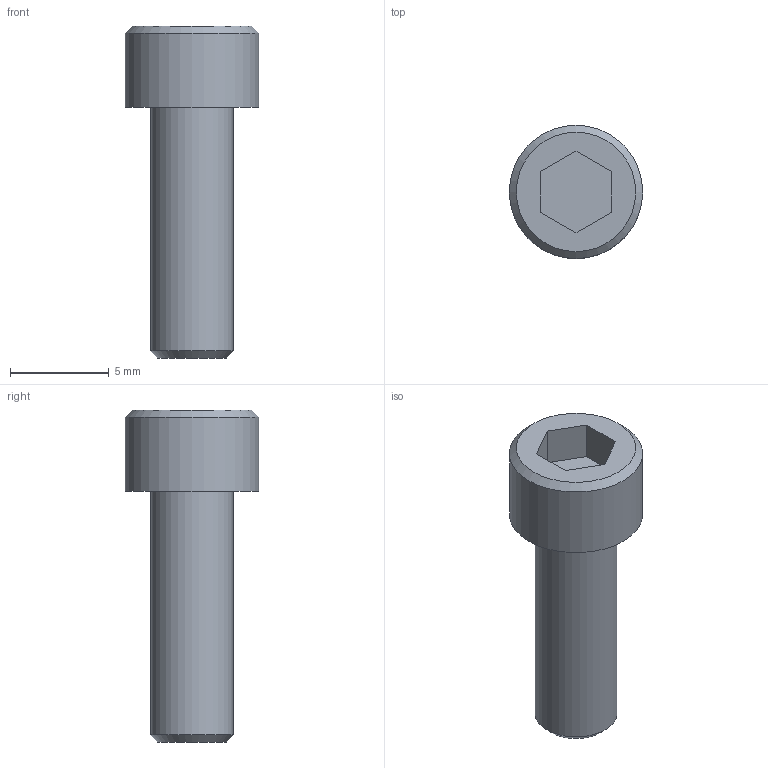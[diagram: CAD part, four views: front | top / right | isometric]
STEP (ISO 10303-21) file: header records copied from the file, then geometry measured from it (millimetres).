
FILE_DESCRIPTION((''),'2;1');
FILE_NAME('C:\Users\Stan\Desktop\import\SHCS 8-32 UNCx0.5.ipt.step','2011-08-18T17:45:28',(''),(''),'Autodesk Inventor 2012','Autodesk Inventor 2012','');
FILE_SCHEMA(('AUTOMOTIVE_DESIGN { 1 0 10303 214 1 1 1 1 }'));
Length unit declared in the file: inch
Products named in the file (1): SHCS 8-32 UNCx0.5
Bounding box: 6.76 x 6.76 x 16.81 mm (x, y, z)
Volume: 296.8 mm3; surface area: 342 mm2
Topology: 1 solids, 1 shells, 14 faces, 28 edges, 18 vertices
Faces by surface type: plane 10, cone 2, cylinder 2
Full cylindrical faces by diameter (mm): 4.166 x1, 6.756 x1
Entity records: 391 total; most frequent: DIRECTION 60, CARTESIAN_POINT 57, ORIENTED_EDGE 48, EDGE_CURVE 24, AXIS2_PLACEMENT_3D 21, EDGE_LOOP 20, VERTEX_POINT 18, VECTOR 18
